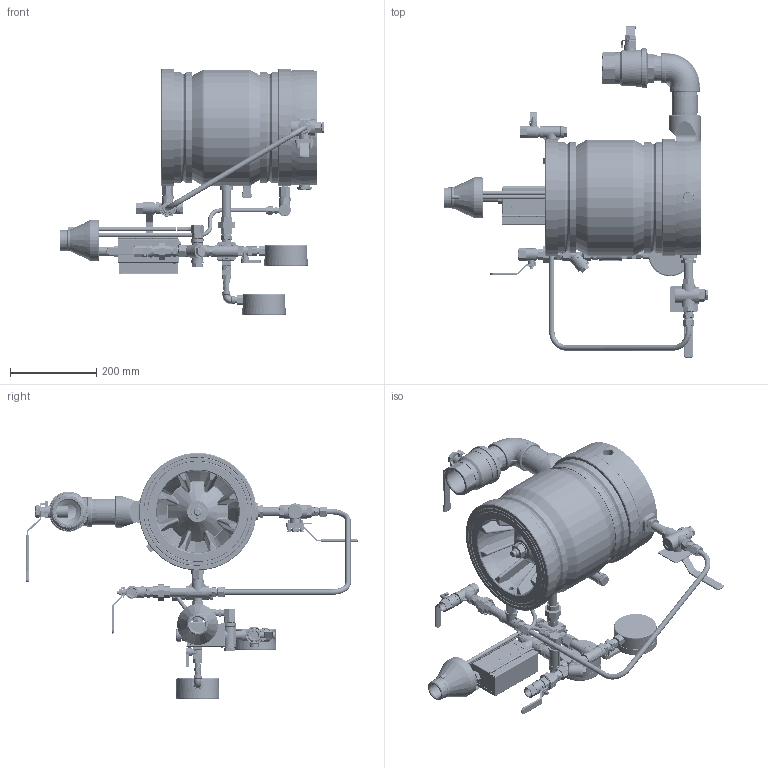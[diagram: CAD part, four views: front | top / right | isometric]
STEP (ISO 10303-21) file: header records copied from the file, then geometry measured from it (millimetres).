
FILE_DESCRIPTION(/* description */ (''),/* implementation_level */ '2;1');
FILE_NAME(/* name */ 'Z:\STANDARD SYSTEM\700DX-04A01\STP\799DX-04A01 FM Trim 8in.stp',/* time_stamp */ '2020-05-05T08:27:14+03:00',/* author */ ('vladi'),/* organization */ (''),/* preprocessor_version */ 'ST-DEVELOPER v16.13',/* originating_system */ 'Autodesk Inventor 2018',/* authorisation */ '');
FILE_SCHEMA (('AUTOMOTIVE_DESIGN { 1 0 10303 214 3 1 1 }'));
Length unit declared in the file: millimetre
Products named in the file (120): 799DX-04A01 FM Trim 8in; 799DX_8in; Nipple 2x82 SS; Elbow 2FxF SS; 351-32-02 angle 90; BODY_351-32-02; HANDLE_351-32-02; HANDLE_COVER_351-32-02; ANSI B18.2.2 - 5/8 - 11; 799D-8 DI; 4247; 4648; 4650; 4249; 3263 DI; 4430; 4515; 4514; 4105; 4679_rev01; 3850-1; GASKET8; Fitting TF 12NPTxOD12; TFFitting Body 12; Back Ferrule 12; Front Ferrule 12; Fitting Nut 12; 5423-7; Bushing 34Mx12F SS316; 347-08-05; BODY_347-08-05; HANDLE_347-08-05; COVER_347-08-10; DIN 934 - M10; ISO 4017 - M5 x 25; DIN 934 - M5; HANDLE_LOCK_347-08-05; Nipple 12x14 L51 SS; Plug 34 SS; 375-08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
Assembly tree (166 placements, depth 5):
  799DX-04A01 FM Trim 8in
    799DX_8in
      Nipple 2x82 SS
      Elbow 2FxF SS
      351-32-02 angle 90
        BODY_351-32-02
        HANDLE_351-32-02
        HANDLE_COVER_351-32-02
        ANSI B18.2.2 - 5/8 - 11
      799D-8 DI
        4247
        4648
        4650
        4249  x2
        3263 DI  x2
        4430
        4515  x2
        4514  x2
        4105
        4679_rev01
      3850-1
      GASKET8
    Plug 34 SS  x2
    Nipple 12x14 L51 SS  x2
    Tee 12 SS  x5
    Fitting TF 12NPTxOD12  x2
      TFFitting Body 12
      Back Ferrule 12
      Front Ferrule 12
      Fitting Nut 12
    Plug 12 SS  x5
    5423-7
    Nipple 12x2.5 SS  x3
    Bushing 34Mx12F SS316
    347-08-05
      BODY_347-08-05
      HANDLE_347-08-05
      COVER_347-08-10
      DIN 934 - M10
      ISO 4017 - M5 x 25  x2
      DIN 934 - M5  x2
      HANDLE_LOCK_347-08-05  x2
    373-08  x2
      4948
    Fitting TF 14NPTx38  x2
      TFFitting Body 38
      Back Ferrule 38
      Fitting Nut 38
      Front Ferrule 38
    375-08
      5076
      5074
      5215
      BALL
      5078
      5073
      5075
      ISO 4762 - M5 x 16  x4
      4095
      5214
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Bounding box: 616 x 771.73 x 571.82 mm (x, y, z)
Volume: 11135852.7 mm3; surface area: 2701706.1 mm2
Topology: 156 solids, 159 shells, 5133 faces, 12150 edges, 7579 vertices
Faces by surface type: plane 2388, cone 1048, cylinder 1002, bspline 513, torus 171, sphere 11
Full cylindrical faces by diameter (mm): 0.625 x1, 2 x2, 3 x1, 3.242 x2, 4 x14, 4.1 x2, 4.134 x8, 4.2 x4, 4.5 x2, 4.978 x3, 5 x18, 5.2 x4, 5.25 x2, 5.5 x4, 5.8 x5, 6 x2, 6.33 x4, 6.35 x2, 6.4 x4, 6.5 x6, 6.647 x1, 6.88 x2, 7 x9, 7.036 x6, 7.3 x2, 7.5 x2, 7.515 x4, 7.6 x2, 7.715 x4, 8 x5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
Entity records: 116451 total; most frequent: CARTESIAN_POINT 32950, ORIENTED_EDGE 15898, DIRECTION 15851, EDGE_CURVE 7941, AXIS2_PLACEMENT_3D 5898, VERTEX_POINT 5327, EDGE_LOOP 4756, LINE 4055
